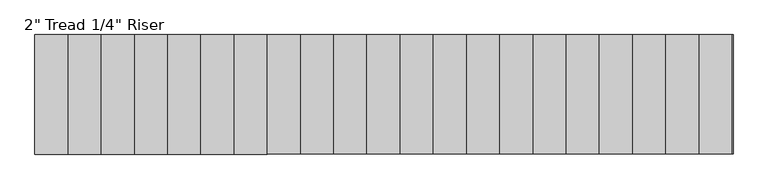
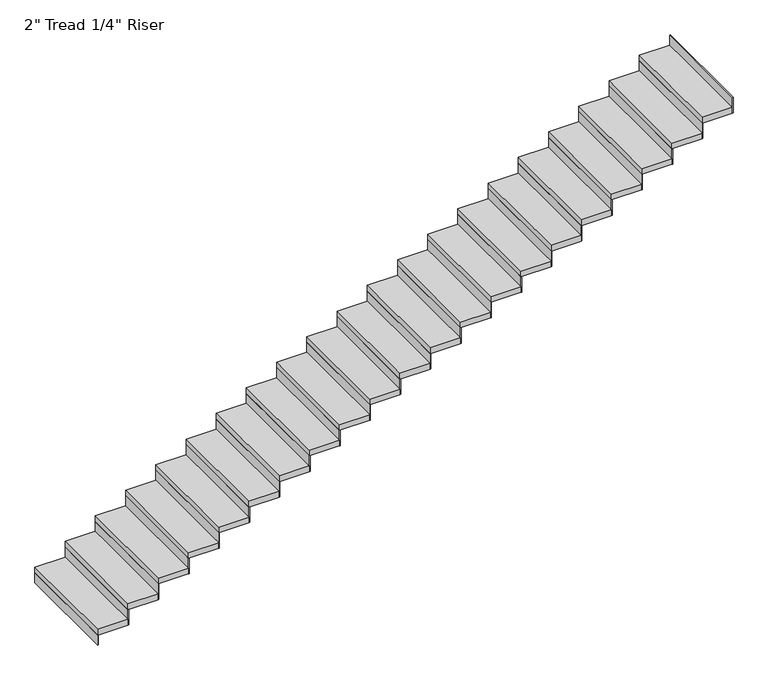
"""IFC4 building model written with IfcOpenShell, lengths in millimetres: stair flight geometry."""

from ifc_helpers import new_model, si_unit, frame, origin, origin_with_axes, place, context, project, spatial, polyline, outline, extrude, source, transform, mapped, element, save


def stair_flight_015d8b91(model_context):
    return source(origin(), model_context, "Body", "SweptSolid", [
        extrude(outline(polyline([(35788.2667764, 34007.0395941), (35781.9167764, 34007.0395941), (35781.9167764, 34921.4395941), (35788.2667764, 34921.4395941), (35788.2667764, 34007.0395941)])), origin_with_axes(), (0.0, 0.0, 1.0), 87.7454545),
        extrude(outline(polyline([(36035.9167764, 34921.4395941), (36035.9167764, 34007.0395941), (35781.9167764, 34007.0395941), (35781.9167764, 34921.4395941), (36035.9167764, 34921.4395941)])), frame((0.0, 0.0, 87.7454545), z_axis=(0.0, 0.0, 1.0), x_axis=(1.0, 0.0, 0.0)), (0.0, 0.0, 1.0), 50.8),
        extrude(outline(polyline([(36042.2667764, 34007.0395941), (36035.9167764, 34007.0395941), (36035.9167764, 34921.4395941), (36042.2667764, 34921.4395941), (36042.2667764, 34007.0395941)])), frame((0.0, 0.0, 87.7454545), z_axis=(0.0, 0.0, 1.0), x_axis=(1.0, 0.0, 0.0)), (0.0, 0.0, 1.0), 138.5454545),
        extrude(outline(polyline([(36289.9167764, 34921.4395941), (36289.9167764, 34007.0395941), (36035.9167764, 34007.0395941), (36035.9167764, 34921.4395941), (36289.9167764, 34921.4395941)])), frame((0.0, 0.0, 226.2909091), z_axis=(0.0, 0.0, 1.0), x_axis=(1.0, 0.0, 0.0)), (0.0, 0.0, 1.0), 50.8),
        extrude(outline(polyline([(36296.2667764, 34007.0395941), (36289.9167764, 34007.0395941), (36289.9167764, 34921.4395941), (36296.2667764, 34921.4395941), (36296.2667764, 34007.0395941)])), frame((0.0, 0.0, 226.2909091), z_axis=(0.0, 0.0, 1.0), x_axis=(1.0, 0.0, 0.0)), (0.0, 0.0, 1.0), 138.5454545),
        extrude(outline(polyline([(36543.9167764, 34921.4395941), (36543.9167764, 34007.0395941), (36289.9167764, 34007.0395941), (36289.9167764, 34921.4395941), (36543.9167764, 34921.4395941)])), frame((0.0, 0.0, 364.8363636), z_axis=(0.0, 0.0, 1.0), x_axis=(1.0, 0.0, 0.0)), (0.0, 0.0, 1.0), 50.8),
        extrude(outline(polyline([(36550.2667764, 34007.0395941), (36543.9167764, 34007.0395941), (36543.9167764, 34921.4395941), (36550.2667764, 34921.4395941), (36550.2667764, 34007.0395941)])), frame((0.0, 0.0, 364.8363636), z_axis=(0.0, 0.0, 1.0), x_axis=(1.0, 0.0, 0.0)), (0.0, 0.0, 1.0), 138.5454545),
        extrude(outline(polyline([(36797.9167764, 34921.4395941), (36797.9167764, 34007.0395941), (36543.9167764, 34007.0395941), (36543.9167764, 34921.4395941), (36797.9167764, 34921.4395941)])), frame((0.0, 0.0, 503.3818182), z_axis=(0.0, 0.0, 1.0), x_axis=(1.0, 0.0, 0.0)), (0.0, 0.0, 1.0), 50.8),
        extrude(outline(polyline([(36804.2667764, 34007.0395941), (36797.9167764, 34007.0395941), (36797.9167764, 34921.4395941), (36804.2667764, 34921.4395941), (36804.2667764, 34007.0395941)])), frame((0.0, 0.0, 503.3818182), z_axis=(0.0, 0.0, 1.0), x_axis=(1.0, 0.0, 0.0)), (0.0, 0.0, 1.0), 138.5454545),
        extrude(outline(polyline([(37051.9167764, 34921.4395941), (37051.9167764, 34007.0395941), (36797.9167764, 34007.0395941), (36797.9167764, 34921.4395941), (37051.9167764, 34921.4395941)])), frame((0.0, 0.0, 641.9272727), z_axis=(0.0, 0.0, 1.0), x_axis=(1.0, 0.0, 0.0)), (0.0, 0.0, 1.0), 50.8),
        extrude(outline(polyline([(37058.2667764, 34007.0395941), (37051.9167764, 34007.0395941), (37051.9167764, 34921.4395941), (37058.2667764, 34921.4395941), (37058.2667764, 34007.0395941)])), frame((0.0, 0.0, 641.9272727), z_axis=(0.0, 0.0, 1.0), x_axis=(1.0, 0.0, 0.0)), (0.0, 0.0, 1.0), 138.5454545),
        extrude(outline(polyline([(37305.9167764, 34921.4395941), (37305.9167764, 34007.0395941), (37051.9167764, 34007.0395941), (37051.9167764, 34921.4395941), (37305.9167764, 34921.4395941)])), frame((0.0, 0.0, 780.4727273), z_axis=(0.0, 0.0, 1.0), x_axis=(1.0, 0.0, 0.0)), (0.0, 0.0, 1.0), 50.8),
        extrude(outline(polyline([(37312.2667764, 34007.0395941), (37305.9167764, 34007.0395941), (37305.9167764, 34921.4395941), (37312.2667764, 34921.4395941), (37312.2667764, 34007.0395941)])), frame((0.0, 0.0, 780.4727273), z_axis=(0.0, 0.0, 1.0), x_axis=(1.0, 0.0, 0.0)), (0.0, 0.0, 1.0), 138.5454545),
        extrude(outline(polyline([(37559.9167764, 34921.4395941), (37559.9167764, 34007.0395941), (37305.9167764, 34007.0395941), (37305.9167764, 34921.4395941), (37559.9167764, 34921.4395941)])), frame((0.0, 0.0, 919.0181818), z_axis=(0.0, 0.0, 1.0), x_axis=(1.0, 0.0, 0.0)), (0.0, 0.0, 1.0), 50.8),
        extrude(outline(polyline([(37566.2667764, 34007.0395941), (37559.9167764, 34007.0395941), (37559.9167764, 34921.4395941), (37566.2667764, 34921.4395941), (37566.2667764, 34007.0395941)])), frame((0.0, 0.0, 919.0181818), z_axis=(0.0, 0.0, 1.0), x_axis=(1.0, 0.0, 0.0)), (0.0, 0.0, 1.0), 138.5454545),
        extrude(outline(polyline([(37813.9167764, 34921.4395941), (37813.9167764, 34007.0395941), (37559.9167764, 34007.0395941), (37559.9167764, 34921.4395941), (37813.9167764, 34921.4395941)])), frame((0.0, 0.0, 1057.5636364), z_axis=(0.0, 0.0, 1.0), x_axis=(1.0, 0.0, 0.0)), (0.0, 0.0, 1.0), 50.8),
        extrude(outline(polyline([(37820.2667764, 34007.0395941), (37813.9167764, 34007.0395941), (37813.9167764, 34921.4395941), (37820.2667764, 34921.4395941), (37820.2667764, 34007.0395941)])), frame((0.0, 0.0, 1057.5636364), z_axis=(0.0, 0.0, 1.0), x_axis=(1.0, 0.0, 0.0)), (0.0, 0.0, 1.0), 138.5454545),
        extrude(outline(polyline([(38067.9167764, 34921.4395941), (38067.9167764, 34007.0395941), (37813.9167764, 34007.0395941), (37813.9167764, 34921.4395941), (38067.9167764, 34921.4395941)])), frame((0.0, 0.0, 1196.1090909), z_axis=(0.0, 0.0, 1.0), x_axis=(1.0, 0.0, 0.0)), (0.0, 0.0, 1.0), 50.8),
        extrude(outline(polyline([(38074.2667764, 34007.0395941), (38067.9167764, 34007.0395941), (38067.9167764, 34921.4395941), (38074.2667764, 34921.4395941), (38074.2667764, 34007.0395941)])), frame((0.0, 0.0, 1196.1090909), z_axis=(0.0, 0.0, 1.0), x_axis=(1.0, 0.0, 0.0)), (0.0, 0.0, 1.0), 138.5454545),
        extrude(outline(polyline([(38321.9167764, 34921.4395941), (38321.9167764, 34007.0395941), (38067.9167764, 34007.0395941), (38067.9167764, 34921.4395941), (38321.9167764, 34921.4395941)])), frame((0.0, 0.0, 1334.6545455), z_axis=(0.0, 0.0, 1.0), x_axis=(1.0, 0.0, 0.0)), (0.0, 0.0, 1.0), 50.8),
        extrude(outline(polyline([(38328.2667764, 34007.0395941), (38321.9167764, 34007.0395941), (38321.9167764, 34921.4395941), (38328.2667764, 34921.4395941), (38328.2667764, 34007.0395941)])), frame((0.0, 0.0, 1334.6545455), z_axis=(0.0, 0.0, 1.0), x_axis=(1.0, 0.0, 0.0)), (0.0, 0.0, 1.0), 138.5454545),
        extrude(outline(polyline([(38575.9167764, 34921.4395941), (38575.9167764, 34007.0395941), (38321.9167764, 34007.0395941), (38321.9167764, 34921.4395941), (38575.9167764, 34921.4395941)])), frame((0.0, 0.0, 1473.2), z_axis=(0.0, 0.0, 1.0), x_axis=(1.0, 0.0, 0.0)), (0.0, 0.0, 1.0), 50.8),
        extrude(outline(polyline([(38582.2667764, 34007.0395941), (38575.9167764, 34007.0395941), (38575.9167764, 34921.4395941), (38582.2667764, 34921.4395941), (38582.2667764, 34007.0395941)])), frame((0.0, 0.0, 1473.2), z_axis=(0.0, 0.0, 1.0), x_axis=(1.0, 0.0, 0.0)), (0.0, 0.0, 1.0), 138.5454545),
        extrude(outline(polyline([(38829.9167764, 34921.4395941), (38829.9167764, 34007.0395941), (38575.9167764, 34007.0395941), (38575.9167764, 34921.4395941), (38829.9167764, 34921.4395941)])), frame((0.0, 0.0, 1611.7454545), z_axis=(0.0, 0.0, 1.0), x_axis=(1.0, 0.0, 0.0)), (0.0, 0.0, 1.0), 50.8),
        extrude(outline(polyline([(38836.2667764, 34007.0395941), (38829.9167764, 34007.0395941), (38829.9167764, 34921.4395941), (38836.2667764, 34921.4395941), (38836.2667764, 34007.0395941)])), frame((0.0, 0.0, 1611.7454545), z_axis=(0.0, 0.0, 1.0), x_axis=(1.0, 0.0, 0.0)), (0.0, 0.0, 1.0), 138.5454545),
        extrude(outline(polyline([(39083.9167764, 34921.4395941), (39083.9167764, 34007.0395941), (38829.9167764, 34007.0395941), (38829.9167764, 34921.4395941), (39083.9167764, 34921.4395941)])), frame((0.0, 0.0, 1750.2909091), z_axis=(0.0, 0.0, 1.0), x_axis=(1.0, 0.0, 0.0)), (0.0, 0.0, 1.0), 50.8),
        extrude(outline(polyline([(39090.2667764, 34007.0395941), (39083.9167764, 34007.0395941), (39083.9167764, 34921.4395941), (39090.2667764, 34921.4395941), (39090.2667764, 34007.0395941)])), frame((0.0, 0.0, 1750.2909091), z_axis=(0.0, 0.0, 1.0), x_axis=(1.0, 0.0, 0.0)), (0.0, 0.0, 1.0), 138.5454545),
        extrude(outline(polyline([(39337.9167764, 34921.4395941), (39337.9167764, 34007.0395941), (39083.9167764, 34007.0395941), (39083.9167764, 34921.4395941), (39337.9167764, 34921.4395941)])), frame((0.0, 0.0, 1888.8363636), z_axis=(0.0, 0.0, 1.0), x_axis=(1.0, 0.0, 0.0)), (0.0, 0.0, 1.0), 50.8),
        extrude(outline(polyline([(39344.2667764, 34007.0395941), (39337.9167764, 34007.0395941), (39337.9167764, 34921.4395941), (39344.2667764, 34921.4395941), (39344.2667764, 34007.0395941)])), frame((0.0, 0.0, 1888.8363636), z_axis=(0.0, 0.0, 1.0), x_axis=(1.0, 0.0, 0.0)), (0.0, 0.0, 1.0), 138.5454545),
        extrude(outline(polyline([(39591.9167764, 34921.4395941), (39591.9167764, 34007.0395941), (39337.9167764, 34007.0395941), (39337.9167764, 34921.4395941), (39591.9167764, 34921.4395941)])), frame((0.0, 0.0, 2027.3818182), z_axis=(0.0, 0.0, 1.0), x_axis=(1.0, 0.0, 0.0)), (0.0, 0.0, 1.0), 50.8),
        extrude(outline(polyline([(39598.2667764, 34007.0395941), (39591.9167764, 34007.0395941), (39591.9167764, 34921.4395941), (39598.2667764, 34921.4395941), (39598.2667764, 34007.0395941)])), frame((0.0, 0.0, 2027.3818182), z_axis=(0.0, 0.0, 1.0), x_axis=(1.0, 0.0, 0.0)), (0.0, 0.0, 1.0), 138.5454545),
        extrude(outline(polyline([(39845.9167764, 34921.4395941), (39845.9167764, 34007.0395941), (39591.9167764, 34007.0395941), (39591.9167764, 34921.4395941), (39845.9167764, 34921.4395941)])), frame((0.0, 0.0, 2165.9272727), z_axis=(0.0, 0.0, 1.0), x_axis=(1.0, 0.0, 0.0)), (0.0, 0.0, 1.0), 50.8),
        extrude(outline(polyline([(39852.2667764, 34007.0395941), (39845.9167764, 34007.0395941), (39845.9167764, 34921.4395941), (39852.2667764, 34921.4395941), (39852.2667764, 34007.0395941)])), frame((0.0, 0.0, 2165.9272727), z_axis=(0.0, 0.0, 1.0), x_axis=(1.0, 0.0, 0.0)), (0.0, 0.0, 1.0), 138.5454545),
        extrude(outline(polyline([(40099.9167764, 34921.4395941), (40099.9167764, 34007.0395941), (39845.9167764, 34007.0395941), (39845.9167764, 34921.4395941), (40099.9167764, 34921.4395941)])), frame((0.0, 0.0, 2304.4727273), z_axis=(0.0, 0.0, 1.0), x_axis=(1.0, 0.0, 0.0)), (0.0, 0.0, 1.0), 50.8),
        extrude(outline(polyline([(40106.2667764, 34007.0395941), (40099.9167764, 34007.0395941), (40099.9167764, 34921.4395941), (40106.2667764, 34921.4395941), (40106.2667764, 34007.0395941)])), frame((0.0, 0.0, 2304.4727273), z_axis=(0.0, 0.0, 1.0), x_axis=(1.0, 0.0, 0.0)), (0.0, 0.0, 1.0), 138.5454545),
        extrude(outline(polyline([(40353.9167764, 34921.4395941), (40353.9167764, 34007.0395941), (40099.9167764, 34007.0395941), (40099.9167764, 34921.4395941), (40353.9167764, 34921.4395941)])), frame((0.0, 0.0, 2443.0181818), z_axis=(0.0, 0.0, 1.0), x_axis=(1.0, 0.0, 0.0)), (0.0, 0.0, 1.0), 50.8),
        extrude(outline(polyline([(40360.2667764, 34007.0395941), (40353.9167764, 34007.0395941), (40353.9167764, 34921.4395941), (40360.2667764, 34921.4395941), (40360.2667764, 34007.0395941)])), frame((0.0, 0.0, 2443.0181818), z_axis=(0.0, 0.0, 1.0), x_axis=(1.0, 0.0, 0.0)), (0.0, 0.0, 1.0), 138.5454545),
        extrude(outline(polyline([(40607.9167764, 34921.4395941), (40607.9167764, 34007.0395941), (40353.9167764, 34007.0395941), (40353.9167764, 34921.4395941), (40607.9167764, 34921.4395941)])), frame((0.0, 0.0, 2581.5636364), z_axis=(0.0, 0.0, 1.0), x_axis=(1.0, 0.0, 0.0)), (0.0, 0.0, 1.0), 50.8),
        extrude(outline(polyline([(40614.2667764, 34007.0395941), (40607.9167764, 34007.0395941), (40607.9167764, 34921.4395941), (40614.2667764, 34921.4395941), (40614.2667764, 34007.0395941)])), frame((0.0, 0.0, 2581.5636364), z_axis=(0.0, 0.0, 1.0), x_axis=(1.0, 0.0, 0.0)), (0.0, 0.0, 1.0), 138.5454545),
        extrude(outline(polyline([(40861.9167764, 34921.4395941), (40861.9167764, 34007.0395941), (40607.9167764, 34007.0395941), (40607.9167764, 34921.4395941), (40861.9167764, 34921.4395941)])), frame((0.0, 0.0, 2720.1090909), z_axis=(0.0, 0.0, 1.0), x_axis=(1.0, 0.0, 0.0)), (0.0, 0.0, 1.0), 50.8),
        extrude(outline(polyline([(40868.2667764, 34007.0395941), (40861.9167764, 34007.0395941), (40861.9167764, 34921.4395941), (40868.2667764, 34921.4395941), (40868.2667764, 34007.0395941)])), frame((0.0, 0.0, 2720.1090909), z_axis=(0.0, 0.0, 1.0), x_axis=(1.0, 0.0, 0.0)), (0.0, 0.0, 1.0), 138.5454545),
        extrude(outline(polyline([(41122.2667764, 34007.0395941), (41115.9167764, 34007.0395941), (41115.9167764, 34921.4395941), (41122.2667764, 34921.4395941), (41122.2667764, 34007.0395941)])), frame((0.0, 0.0, 2858.6545455), z_axis=(0.0, 0.0, 1.0), x_axis=(1.0, 0.0, 0.0)), (0.0, 0.0, 1.0), 138.5454545),
        extrude(outline(polyline([(41115.9167764, 34921.4395941), (41115.9167764, 34007.0395941), (40861.9167764, 34007.0395941), (40861.9167764, 34921.4395941), (41115.9167764, 34921.4395941)])), frame((0.0, 0.0, 2858.6545455), z_axis=(0.0, 0.0, 1.0), x_axis=(1.0, 0.0, 0.0)), (0.0, 0.0, 1.0), 50.8),
    ])


if __name__ == "__main__":
    model = new_model("IFC4")
    model_context = context("Model", 3, world=origin())
    ifc_project = project(units=[si_unit("LENGTHUNIT", "METRE", prefix="MILLI")], contexts=[model_context])
    site = spatial("IfcSite", under=ifc_project)
    building = spatial("IfcBuilding", under=site)
    placement = place(None, origin())
    stair_flight_shape = stair_flight_015d8b91(model_context)
    element("IfcStairFlight", 1, ObjectType="2\" Tread 1/4\" Riser", at=placement, inside=building, context=model_context, shape_type="MappedRepresentation", body=[
        mapped(stair_flight_shape, transform((0.0, 0.0, 0.0), x_axis=(1.0, 0.0, 0.0), y_axis=(0.0, 1.0, 0.0), z_axis=(0.0, 0.0, 1.0))),
    ])
    save(model, "model.ifc")
